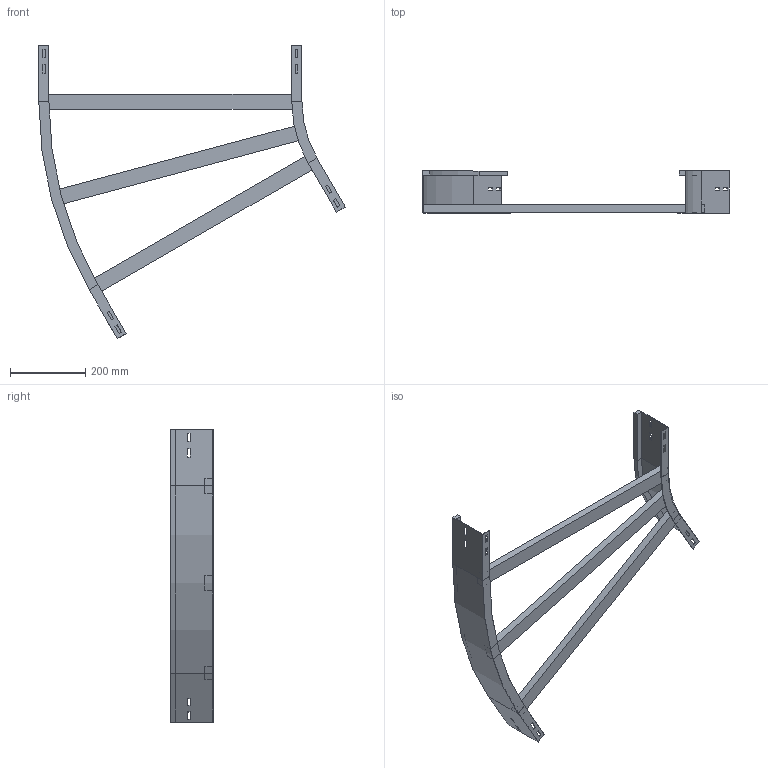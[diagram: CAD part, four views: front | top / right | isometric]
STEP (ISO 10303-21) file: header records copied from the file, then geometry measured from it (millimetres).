
FILE_DESCRIPTION (( 'STEP AP214' ), '1' );
FILE_NAME ('A2_12B3J700.step', '2025-02-21T15:09:08', ( '' ), ( '' ), 'SwSTEP 2.0', 'SolidWorks 2023', '' );
FILE_SCHEMA (( 'AUTOMOTIVE_DESIGN' ));
Length unit declared in the file: millimetre
Products named in the file (4): A2_LONGH.ESTERNO 30°_H112.5_R300+700; A2_LONGH.INTERNO 30°_H112.5_R300; A2_12B3J700; TRAVERSINO_700
Assembly tree (5 placements, depth 2):
  A2_12B3J700
    A2_LONGH.INTERNO 30°_H112.5_R300
    A2_LONGH.ESTERNO 30°_H112.5_R300+700
    TRAVERSINO_700  x3
Bounding box: 815.19 x 112.5 x 779.9 mm (x, y, z)
Volume: 2284428.8 mm3; surface area: 654595 mm2
Topology: 5 solids, 5 shells, 134 faces, 340 edges, 216 vertices
Faces by surface type: plane 126, cylinder 8
Entity records: 3821 total; most frequent: CARTESIAN_POINT 646, ORIENTED_EDGE 632, DIRECTION 592, EDGE_CURVE 316, LINE 300, VECTOR 300, VERTEX_POINT 200, EDGE_LOOP 154
